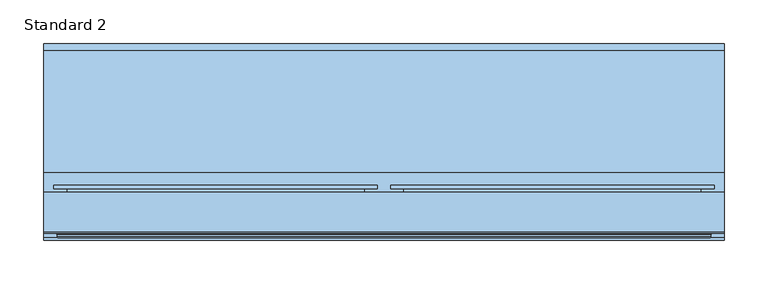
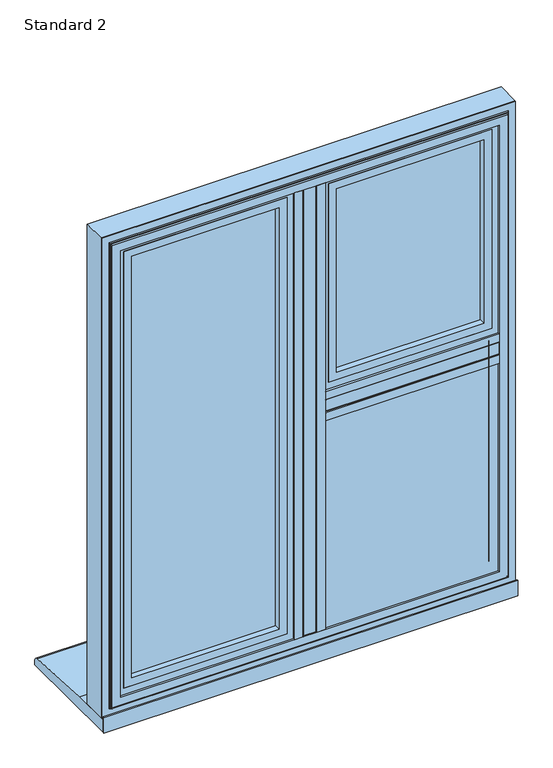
"""IFC4 building model written with IfcOpenShell, lengths in millimetres: window geometry, SMARTS_AlithermHeritage : Standard 2."""

from ifc_helpers import new_model, si_unit, point, frame, frame_2d, origin, place, context, project, spatial, polyline, circle_curve, ellipse_curve, trimmed, segment, composite_curve, outline, extrude, faceted_brep, source, transform, mapped, element, save
from ifc_brep_helpers import plane_surface, cylinder_surface, revolved_surface, advanced_brep


def standard_2_5219ce2f(model_context):
    return source(origin(), model_context, "Body", "SolidModel", [
        extrude(outline(polyline([(-13.6941456, 95.2798432), (13.6941456, 95.2798432), (13.6941456, 47.279476), (-13.6941456, 47.279476), (-13.6941456, 95.2798432)])), frame((0.0, 0.0, 652.6941456), z_axis=(0.0, 0.0, 1.0), x_axis=(1.0, 0.0, 0.0)), (0.0, 0.0, 1.0), 919.6117089),
        extrude(outline(composite_curve([segment(polyline([(-29.0, 47.279476), (29.0, 47.279476), (29.0, 43.2798432), (13.0, 43.2798432)]), True, "CONTINUOUS"), segment(trimmed(circle_curve(frame_2d((13.0, 44.2798432)), 1.0), [point((13.0, 43.2798432))], [point((12.0, 44.2798432))], False, "CARTESIAN"), True, "CONTINUOUS"), segment(polyline([(12.0, 44.2798432), (12.0, 45.7798432), (-12.0, 45.7798432), (-12.0, 44.2798432)]), True, "CONTINUOUS"), segment(trimmed(circle_curve(frame_2d((-13.0, 44.2798432)), 1.0), [point((-12.0, 44.2798432))], [point((-13.0, 43.2798432))], False, "CARTESIAN"), True, "CONTINUOUS"), segment(polyline([(-13.0, 43.2798432), (-29.0, 43.2798432), (-29.0, 47.279476)]), True, "CONTINUOUS")], self_intersect=False)), frame((0.0, 0.0, 668.0), z_axis=(0.0, 0.0, 1.0), x_axis=(1.0, 0.0, 0.0)), (0.0, 0.0, 1.0), 889.0),
        extrude(outline(polyline([(372.3058544, 95.2798432), (372.3058544, 47.279476), (13.6941456, 47.279476), (13.6941456, 95.2798432), (372.3058544, 95.2798432)])), frame((0.0, 0.0, 1098.8058544), z_axis=(0.0, 0.0, 1.0), x_axis=(1.0, 0.0, 0.0)), (0.0, 0.0, 1.0), 27.3882911),
        extrude(outline(composite_curve([segment(polyline([(47.279476, 1083.5), (43.2798432, 1083.5), (43.2798432, 1099.5)]), True, "CONTINUOUS"), segment(trimmed(circle_curve(frame_2d((44.2798432, 1099.5)), 1.0), [point((43.2798432, 1099.5))], [point((44.2798432, 1100.5))], False, "CARTESIAN"), True, "CONTINUOUS"), segment(polyline([(44.2798432, 1100.5), (45.7798432, 1100.5), (45.7798432, 1124.5), (44.2798432, 1124.5)]), True, "CONTINUOUS"), segment(trimmed(circle_curve(frame_2d((44.2798432, 1125.5)), 1.0), [point((44.2798432, 1124.5))], [point((43.2798432, 1125.5))], False, "CARTESIAN"), True, "CONTINUOUS"), segment(polyline([(43.2798432, 1125.5), (43.2798432, 1141.5), (47.279476, 1141.5), (47.279476, 1083.5)]), True, "CONTINUOUS")], self_intersect=False)), frame((29.0, 0.0, 0.0), z_axis=(1.0, 0.0, 0.0), x_axis=(0.0, 1.0, 0.0)), (0.0, 0.0, 1.0), 328.0),
        extrude(outline(polyline([(-343.5, 89.2798432), (-42.5, 89.2798432), (-42.5, 85.2798432), (-343.5, 85.2798432), (-343.5, 89.2798432)])), frame((0.0, 0.0, 681.5), z_axis=(0.0, 0.0, 1.0), x_axis=(1.0, 0.0, 0.0)), (0.0, 0.0, 1.0), 862.0),
        extrude(outline(polyline([(-343.5, 69.2798432), (-42.5, 69.2798432), (-42.5, 65.2798432), (-343.5, 65.2798432), (-343.5, 69.2798432)])), frame((0.0, 0.0, 681.5), z_axis=(0.0, 0.0, 1.0), x_axis=(1.0, 0.0, 0.0)), (0.0, 0.0, 1.0), 862.0),
        extrude(outline(polyline([(1543.5, -343.5), (681.5, -343.5), (681.5, -42.5), (1543.5, -42.5), (1543.5, -343.5)]), holes=[polyline([(1533.5, -52.5), (691.5, -52.5), (691.5, -333.5), (1533.5, -333.5), (1533.5, -52.5)])]), frame((0.0, 69.2798432, 0.0), z_axis=(0.0, 1.0, 0.0), x_axis=(0.0, 0.0, 1.0)), (0.0, 0.0, 1.0), 16.0),
        extrude(outline(polyline([(1547.0052956, -347.0052956), (677.9947044, -347.0052956), (677.9947044, -38.9947044), (1547.0052956, -38.9947044), (1547.0052956, -347.0052956)]), holes=[polyline([(1532.0, -54.0), (693.0, -54.0), (693.0, -332.0), (1532.0, -332.0), (1532.0, -54.0)])]), frame((0.0, 51.2798432, 0.0), z_axis=(0.0, 1.0, 0.0), x_axis=(0.0, 0.0, 1.0)), (0.0, 0.0, 1.0), 11.3),
        extrude(outline(polyline([(662.3548042, -362.6451958), (662.3548042, -23.3548042), (1562.6451958, -23.3548042), (1562.6451958, -362.6451958), (662.3548042, -362.6451958)]), holes=[polyline([(1547.0, -347.0), (1547.0, -39.0), (678.0, -39.0), (678.0, -347.0), (1547.0, -347.0)])]), frame((0.0, 51.2798432, 0.0), z_axis=(0.0, 1.0, 0.0), x_axis=(0.0, 0.0, 1.0)), (0.0, 0.0, 1.0), 41.6),
        advanced_brep(
        [(-332.0, 98.0798432, 1532.0), (-332.0, 92.8798432, 1532.0), (-332.0, 92.8798432, 693.0), (-332.0, 98.0798432, 693.0), (-54.0, 92.8798432, 693.0), (-54.0, 98.0798432, 693.0), (-54.0, 92.8798432, 1532.0), (-54.0, 98.0798432, 1532.0), (-378.2, 99.2798432, 1578.2), (-378.2, 103.2798432, 1578.2), (-378.2, 103.2798432, 646.8), (-378.2, 99.2798432, 646.8), (-7.8, 103.2798432, 646.8), (-7.8, 99.2798432, 646.8), (-7.8, 103.2798432, 1578.2), (-7.8, 99.2798432, 1578.2), (-363.1467657, 99.2798432, 1563.1467657), (-22.8532343, 99.2798432, 1563.1467657), (-22.8532343, 99.2798432, 661.8532343), (-363.1467657, 99.2798432, 661.8532343), (-349.2, 103.2798432, 675.8), (-36.8, 103.2798432, 675.8), (-36.8, 103.2798432, 1549.2), (-349.2, 103.2798432, 1549.2), (-363.1467657, 92.8798432, 1563.1467657), (-363.1467657, 92.8798432, 661.8532343), (-22.8532343, 92.8798432, 661.8532343), (-22.8532343, 92.8798432, 1563.1467657), (-347.2, 101.2798432, 1547.2), (-347.2, 100.0798432, 1547.2), (-347.2, 100.0798432, 677.8), (-347.2, 101.2798432, 677.8), (-345.2, 98.0798432, 1545.2), (-345.2, 98.0798432, 679.8), (-38.8, 100.0798432, 677.8), (-38.8, 101.2798432, 677.8), (-40.8, 98.0798432, 679.8), (-38.8, 100.0798432, 1547.2), (-38.8, 101.2798432, 1547.2), (-40.8, 98.0798432, 1545.2)],
        [
            (0, 1),
            (1, 2),
            (2, 3),
            (3, 0),
            (2, 4),
            (4, 5),
            (5, 3),
            (4, 6),
            (6, 7),
            (7, 5),
            (6, 1),
            (0, 7),
            (8, 9),
            (9, 10),
            (10, 11),
            (11, 8),
            (10, 12),
            (12, 13),
            (13, 11),
            (12, 14),
            (14, 15),
            (15, 13),
            (15, 8),
            (16, 17),
            (17, 18),
            (18, 19),
            (19, 16),
            (14, 9),
            (20, 21),
            (21, 22),
            (22, 23),
            (23, 20),
            (24, 16),
            (19, 25),
            (25, 24),
            (18, 26),
            (26, 25),
            (17, 27),
            (27, 26),
            (27, 24),
            (28, 29),
            (29, 30),
            (30, 31),
            (31, 28),
            (29, 32, ellipse_curve(frame((-345.2, 100.0798432, 1545.2), z_axis=(0.7071067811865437, 0.0, 0.7071067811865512), x_axis=(0.7071067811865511, 0.0, -0.7071067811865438)), 2.8284271, 2.0)),
            (32, 33),
            (33, 30, ellipse_curve(frame((-345.2, 100.0798432, 679.8), z_axis=(0.7071067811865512, 0.0, -0.7071067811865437), x_axis=(-0.7071067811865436, 0.0, -0.7071067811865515)), 2.8284271, 2.0)),
            (30, 34),
            (34, 35),
            (35, 31),
            (33, 36),
            (36, 34, ellipse_curve(frame((-40.8, 100.0798432, 679.8), z_axis=(0.7071067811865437, 0.0, 0.7071067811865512), x_axis=(0.7071067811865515, 0.0, -0.7071067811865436)), 2.8284271, 2.0)),
            (34, 37),
            (37, 38),
            (38, 35),
            (36, 39),
            (39, 37, ellipse_curve(frame((-40.8, 100.0798432, 1545.2), z_axis=(-0.7071067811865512, 0.0, 0.7071067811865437), x_axis=(0.7071067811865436, 0.0, 0.7071067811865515)), 2.8284271, 2.0)),
            (32, 39),
            (37, 29),
            (28, 38),
            (23, 28, ellipse_curve(frame((-349.2, 101.2798432, 1549.2), z_axis=(-0.7071067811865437, 0.0, -0.7071067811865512), x_axis=(-0.7071067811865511, 0.0, 0.7071067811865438)), 2.8284271, 2.0)),
            (31, 20, ellipse_curve(frame((-349.2, 101.2798432, 675.8), z_axis=(-0.7071067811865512, 0.0, 0.7071067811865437), x_axis=(0.7071067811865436, 0.0, 0.7071067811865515)), 2.8284271, 2.0)),
            (35, 21, ellipse_curve(frame((-36.8, 101.2798432, 675.8), z_axis=(-0.7071067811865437, 0.0, -0.7071067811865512), x_axis=(-0.7071067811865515, 0.0, 0.7071067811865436)), 2.8284271, 2.0)),
            (38, 22, ellipse_curve(frame((-36.8, 101.2798432, 1549.2), z_axis=(0.7071067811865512, 0.0, -0.7071067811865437), x_axis=(-0.7071067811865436, 0.0, -0.7071067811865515)), 2.8284271, 2.0)),
        ],
        [
            plane_surface(frame((-332.0, 92.8798432, 1532.0), z_axis=(1.0, 0.0, 0.0), x_axis=(0.0, 0.0, -1.0))),
            plane_surface(frame((-332.0, 92.8798432, 693.0), z_axis=(0.0, 0.0, 1.0), x_axis=(1.0, 0.0, 0.0))),
            plane_surface(frame((-54.0, 92.8798432, 693.0), z_axis=(-1.0, 0.0, 0.0), x_axis=(0.0, 0.0, 1.0))),
            plane_surface(frame((-54.0, 92.8798432, 1532.0), z_axis=(0.0, 0.0, -1.0), x_axis=(-1.0, 0.0, 0.0))),
            plane_surface(frame((-378.2, 103.2798432, 1578.2), z_axis=(-1.0, 0.0, 0.0), x_axis=(0.0, 0.0, -1.0))),
            plane_surface(frame((-378.2, 103.2798432, 646.8), z_axis=(0.0, 0.0, -1.0), x_axis=(1.0, 0.0, 0.0))),
            plane_surface(frame((-7.8, 103.2798432, 646.8), z_axis=(1.0, 0.0, 0.0), x_axis=(0.0, 0.0, 1.0))),
            plane_surface(frame((-7.8, 99.2798432, 1578.2), z_axis=(0.0, -1.0, 0.0), x_axis=(-1.0, 0.0, 0.0))),
            plane_surface(frame((-7.8, 103.2798432, 1578.2), z_axis=(0.0, 0.0, 1.0), x_axis=(-1.0, 0.0, 0.0))),
            plane_surface(frame((-36.8, 103.2798432, 1549.2), z_axis=(0.0, 1.0, 0.0), x_axis=(-1.0, 0.0, 0.0))),
            plane_surface(frame((-363.1467657, 99.2798432, 1563.1467657), z_axis=(-1.0, 0.0, 0.0), x_axis=(0.0, 0.0, -1.0))),
            plane_surface(frame((-363.1467657, 99.2798432, 661.8532343), z_axis=(0.0, 0.0, -1.0), x_axis=(1.0, 0.0, 0.0))),
            plane_surface(frame((-22.8532343, 99.2798432, 661.8532343), z_axis=(1.0, 0.0, 0.0), x_axis=(0.0, 0.0, 1.0))),
            plane_surface(frame((-22.8532343, 92.8798432, 1563.1467657), z_axis=(0.0, -1.0, 0.0), x_axis=(-1.0, 0.0, 0.0))),
            plane_surface(frame((-22.8532343, 99.2798432, 1563.1467657), z_axis=(0.0, 0.0, 1.0), x_axis=(-1.0, 0.0, 0.0))),
            plane_surface(frame((-347.2, 100.0798432, 1547.2), z_axis=(1.0, 0.0, 0.0), x_axis=(0.0, 0.0, -1.0))),
            revolved_surface(polyline([(-347.2, 100.0798432, 677.8), (-347.2, 100.0798432, 1547.2)]), (-345.2, 100.0798432, 1557.0), (0.0, 0.0, -1.0)),
            plane_surface(frame((-347.2, 100.0798432, 677.8), z_axis=(0.0, 0.0, 1.0), x_axis=(1.0, 0.0, 0.0))),
            revolved_surface(polyline([(-38.80000000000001, 100.0798432, 677.8), (-347.2, 100.0798432, 677.8)]), (-357.0, 100.0798432, 679.8), (1.0, 0.0, 0.0)),
            plane_surface(frame((-38.8, 100.0798432, 677.8), z_axis=(-1.0, 0.0, 0.0), x_axis=(0.0, 0.0, 1.0))),
            revolved_surface(polyline([(-38.8, 100.0798432, 1547.2), (-38.8, 100.0798432, 677.8)]), (-40.8, 100.0798432, 668.0), (0.0, 0.0, 1.0)),
            plane_surface(frame((-54.0, 98.0798432, 1532.0), z_axis=(0.0, 1.0, 0.0), x_axis=(-1.0, 0.0, 0.0))),
            plane_surface(frame((-38.8, 100.0798432, 1547.2), z_axis=(0.0, 0.0, -1.0), x_axis=(-1.0, 0.0, 0.0))),
            revolved_surface(polyline([(-347.2, 100.0798432, 1547.2), (-38.8, 100.0798432, 1547.2)]), (-29.0, 100.0798432, 1545.2), (-1.0, 0.0, 0.0)),
            cylinder_surface(frame((-349.2, 101.2798432, 1557.0), z_axis=(0.0, 0.0, 1.0), x_axis=(-1.0, 0.0, 0.0)), 2.0),
            cylinder_surface(frame((-357.0, 101.2798432, 675.8), z_axis=(-1.0, 0.0, 0.0), x_axis=(0.0, 0.0, -1.0)), 2.0),
            cylinder_surface(frame((-36.8, 101.2798432, 668.0), z_axis=(0.0, 0.0, -1.0), x_axis=(1.0, 0.0, 0.0)), 2.0),
            cylinder_surface(frame((-29.0, 101.2798432, 1549.2), z_axis=(1.0, 0.0, 0.0), x_axis=(0.0, 0.0, 1.0)), 2.0),
        ],
        [
            (0, [[1, 2, 3, 4]]),
            (1, [[-3, 5, 6, 7]]),
            (2, [[-6, 8, 9, 10]]),
            (3, [[-9, 11, -1, 12]]),
            (4, [[13, 14, 15, 16]]),
            (5, [[-15, 17, 18, 19]]),
            (6, [[-18, 20, 21, 22]]),
            (7, [[-19, -22, 23, -16], [24, 25, 26, 27]]),
            (8, [[-21, 28, -13, -23]]),
            (9, [[-28, -20, -17, -14], [29, 30, 31, 32]]),
            (10, [[33, -27, 34, 35]]),
            (11, [[-34, -26, 36, 37]]),
            (12, [[-36, -25, 38, 39]]),
            (13, [[-37, -39, 40, -35], [-11, -8, -5, -2]]),
            (14, [[-38, -24, -33, -40]]),
            (15, [[41, 42, 43, 44]]),
            (16, [[45, 46, 47, -42]]),
            (17, [[-43, 48, 49, 50]]),
            (18, [[-47, 51, 52, -48]]),
            (19, [[-49, 53, 54, 55]]),
            (20, [[-52, 56, 57, -53]]),
            (21, [[58, -56, -51, -46], [-7, -10, -12, -4]]),
            (22, [[-54, 59, -41, 60]]),
            (23, [[-57, -58, -45, -59]]),
            (24, [[61, -44, 62, -32]]),
            (25, [[-62, -50, 63, -29]]),
            (26, [[-63, -55, 64, -30]]),
            (27, [[-64, -60, -61, -31]]),
        ],
    ),
        extrude(outline(polyline([(19.0, 75.2798432), (367.0, 75.2798432), (367.0, 71.2798432), (19.0, 71.2798432), (19.0, 75.2798432)])), frame((0.0, 0.0, 658.0), z_axis=(0.0, 0.0, 1.0), x_axis=(1.0, 0.0, 0.0)), (0.0, 0.0, 1.0), 435.5),
        extrude(outline(polyline([(19.0, 55.2798432), (367.0, 55.2798432), (367.0, 51.2798432), (19.0, 51.2798432), (19.0, 55.2798432)])), frame((0.0, 0.0, 658.0), z_axis=(0.0, 0.0, 1.0), x_axis=(1.0, 0.0, 0.0)), (0.0, 0.0, 1.0), 435.5),
        extrude(outline(polyline([(1093.5, 19.0), (658.0, 19.0), (658.0, 367.0), (1093.5, 367.0), (1093.5, 19.0)]), holes=[polyline([(1083.5, 357.0), (668.0, 357.0), (668.0, 29.0), (1083.5, 29.0), (1083.5, 357.0)])]), frame((0.0, 55.2798432, 0.0), z_axis=(0.0, 1.0, 0.0), x_axis=(0.0, 0.0, 1.0)), (0.0, 0.0, 1.0), 16.0),
        faceted_brep([(366.8148849, 95.2798432, 1093.3148849), (357.0, 78.2798098, 1083.5), (29.0, 78.2798098, 1083.5), (19.1851151, 95.2798432, 1093.3148849), (372.3702676, 78.2798098, 1098.8702676), (372.3702676, 95.2798432, 1098.8702676), (13.6297324, 95.2798432, 1098.8702676), (13.6297324, 78.2798098, 1098.8702676), (13.6297324, 78.2798098, 652.6297324), (13.6297324, 95.2798432, 652.6297324), (372.3702676, 95.2798432, 652.6297324), (372.3702676, 78.2798098, 652.6297324), (19.1851151, 95.2798432, 658.1851151), (366.8148849, 95.2798432, 658.1851151), (357.0, 78.2798098, 668.0), (29.0, 78.2798098, 668.0)], [[[0, 1, 2, 3]], [[4, 5, 6, 7]], [[8, 9, 10, 11]], [[5, 10, 9, 6], [3, 12, 13, 0]], [[7, 8, 11, 4], [1, 14, 15, 2]], [[3, 2, 15, 12]], [[7, 6, 9, 8]], [[12, 15, 14, 13]], [[13, 14, 1, 0]], [[11, 10, 5, 4]]]),
        extrude(outline(polyline([(1590.0, 390.0), (1590.0, -390.0), (635.0, -390.0), (635.0, 390.0), (1590.0, 390.0)]), holes=[polyline([(652.7000182, 372.2999818), (652.7000182, -372.2999818), (1572.2999818, -372.2999818), (1572.2999818, 372.2999818), (652.7000182, 372.2999818)])]), frame((0.0, 50.279857, 0.0), z_axis=(0.0, 1.0, 0.0), x_axis=(0.0, 0.0, 1.0)), (0.0, 0.0, 1.0), 44.9999962),
        advanced_brep(
        [(357.0, 43.2798432, 1557.0), (357.0, 47.2798432, 1557.0), (357.0, 47.2798432, 668.0), (357.0, 43.2798432, 668.0), (390.0, 50.279857, 1590.0), (390.0, 48.279857, 1590.0), (390.0, 48.279857, 635.0), (390.0, 50.279857, 635.0), (372.4999818, 43.2798432, 1572.4999818), (-372.4999818, 43.2798432, 1572.4999818), (-372.4999818, 43.2798432, 652.5000182), (372.4999818, 43.2798432, 652.5000182), (-357.0, 43.2798432, 668.0), (-357.0, 43.2798432, 1557.0), (-390.0, 50.279857, 1590.0), (-390.0, 48.279857, 1590.0), (-390.0, 50.279857, 635.0), (372.2999818, 50.279857, 1572.2999818), (-372.2999818, 50.279857, 1572.2999818), (-372.2999818, 50.279857, 652.7000182), (372.2999818, 50.279857, 652.7000182), (-357.0, 47.2798432, 1557.0), (-357.0, 47.2798432, 668.0), (-390.0, 48.279857, 635.0), (-372.2999818, 47.2798432, 1572.2999818), (372.2999818, 47.2798432, 1572.2999818), (372.2999818, 47.2798432, 652.7000182), (374.4999818, 46.779857, 650.5000182), (374.4999818, 45.2798432, 650.5000182), (-374.4999818, 45.2798432, 650.5000182), (-374.4999818, 46.779857, 650.5000182), (374.4999818, 46.779857, 1574.4999818), (374.4999818, 45.2798432, 1574.4999818), (-372.2999818, 47.2798432, 652.7000182), (-374.4999818, 45.2798432, 1574.4999818), (-374.4999818, 46.779857, 1574.4999818), (375.9999818, 48.279857, 1575.9999818), (375.9999818, 48.279857, 649.0000182), (-375.9999818, 48.279857, 649.0000182), (-375.9999818, 48.279857, 1575.9999818)],
        [
            (0, 1),
            (1, 2),
            (2, 3),
            (3, 0),
            (4, 5),
            (5, 6),
            (6, 7),
            (7, 4),
            (8, 9),
            (9, 10),
            (10, 11),
            (11, 8),
            (3, 12),
            (12, 13),
            (13, 0),
            (14, 15),
            (15, 5),
            (4, 14),
            (7, 16),
            (16, 14),
            (17, 18),
            (18, 19),
            (19, 20),
            (20, 17),
            (13, 21),
            (21, 1),
            (2, 22),
            (22, 12),
            (22, 21),
            (6, 23),
            (23, 16),
            (23, 15),
            (24, 18),
            (17, 25),
            (25, 24),
            (20, 26),
            (26, 25),
            (27, 28),
            (28, 29),
            (29, 30),
            (30, 27),
            (31, 32),
            (32, 28),
            (27, 31),
            (19, 33),
            (33, 26),
            (24, 33),
            (29, 34),
            (34, 35),
            (35, 30),
            (34, 32),
            (31, 35),
            (36, 31, ellipse_curve(frame((375.9999818, 46.779857, 1575.9999818), z_axis=(-0.7071067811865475, 0.0, 0.7071067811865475), x_axis=(-0.7071067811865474, 0.0, -0.7071067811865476)), 2.1213203, 1.5)),
            (27, 37, ellipse_curve(frame((375.9999818, 46.779857, 649.0000182), z_axis=(-0.7071067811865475, 0.0, -0.7071067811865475), x_axis=(0.7071067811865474, 0.0, -0.7071067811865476)), 2.1213203, 1.5)),
            (37, 36),
            (30, 38, ellipse_curve(frame((-375.9999818, 46.779857, 649.0000182), z_axis=(-0.7071067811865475, 0.0, 0.7071067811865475), x_axis=(-0.7071067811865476, 0.0, -0.7071067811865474)), 2.1213203, 1.5)),
            (38, 37),
            (35, 39, ellipse_curve(frame((-375.9999818, 46.779857, 1575.9999818), z_axis=(0.7071067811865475, 0.0, 0.7071067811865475), x_axis=(-0.7071067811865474, 0.0, 0.7071067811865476)), 2.1213203, 1.5)),
            (39, 38),
            (36, 39),
            (32, 8, ellipse_curve(frame((372.4999818, 45.2798432, 1572.4999818), z_axis=(0.7071067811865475, 0.0, -0.7071067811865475), x_axis=(0.7071067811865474, 0.0, 0.7071067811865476)), 2.8284271, 2.0)),
            (11, 28, ellipse_curve(frame((372.4999818, 45.2798432, 652.5000182), z_axis=(0.7071067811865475, 0.0, 0.7071067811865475), x_axis=(-0.7071067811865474, 0.0, 0.7071067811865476)), 2.8284271, 2.0)),
            (10, 29, ellipse_curve(frame((-372.4999818, 45.2798432, 652.5000182), z_axis=(0.7071067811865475, 0.0, -0.7071067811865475), x_axis=(0.7071067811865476, 0.0, 0.7071067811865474)), 2.8284271, 2.0)),
            (9, 34, ellipse_curve(frame((-372.4999818, 45.2798432, 1572.4999818), z_axis=(-0.7071067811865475, 0.0, -0.7071067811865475), x_axis=(0.7071067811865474, 0.0, -0.7071067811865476)), 2.8284271, 2.0)),
        ],
        [
            plane_surface(frame((357.0, 47.2798432, 1557.0), z_axis=(-1.0, 0.0, 0.0), x_axis=(0.0, 0.0, -1.0))),
            plane_surface(frame((390.0, 48.279857, 1590.0), z_axis=(1.0, 0.0, 0.0), x_axis=(0.0, 0.0, -1.0))),
            plane_surface(frame((-357.0, 43.2798432, 1557.0), z_axis=(0.0, -1.0, 0.0), x_axis=(1.0, 0.0, 0.0))),
            plane_surface(frame((-390.0, 48.279857, 1590.0), z_axis=(0.0, 0.0, 1.0), x_axis=(1.0, 0.0, 0.0))),
            plane_surface(frame((-390.0, 50.279857, 1590.0), z_axis=(0.0, 1.0, 0.0), x_axis=(1.0, 0.0, 0.0))),
            plane_surface(frame((-357.0, 47.2798432, 1557.0), z_axis=(0.0, 0.0, -1.0), x_axis=(1.0, 0.0, 0.0))),
            plane_surface(frame((357.0, 47.2798432, 668.0), z_axis=(0.0, 0.0, 1.0), x_axis=(-1.0, 0.0, 0.0))),
            plane_surface(frame((-357.0, 47.2798432, 668.0), z_axis=(1.0, 0.0, 0.0), x_axis=(0.0, 0.0, 1.0))),
            plane_surface(frame((390.0, 48.279857, 635.0), z_axis=(0.0, 0.0, -1.0), x_axis=(-1.0, 0.0, 0.0))),
            plane_surface(frame((-390.0, 48.279857, 635.0), z_axis=(-1.0, 0.0, 0.0), x_axis=(0.0, 0.0, 1.0))),
            plane_surface(frame((-372.2999818, 50.279857, 1572.2999818), z_axis=(0.0, 0.0, -1.0), x_axis=(1.0, 0.0, 0.0))),
            plane_surface(frame((372.2999818, 50.279857, 1572.2999818), z_axis=(-1.0, 0.0, 0.0), x_axis=(0.0, 0.0, -1.0))),
            plane_surface(frame((374.4999818, 45.2798432, 650.5000182), z_axis=(0.0, 0.0, -1.0), x_axis=(-1.0, 0.0, 0.0))),
            plane_surface(frame((374.4999818, 45.2798432, 1574.4999818), z_axis=(1.0, 0.0, 0.0), x_axis=(0.0, 0.0, -1.0))),
            plane_surface(frame((372.2999818, 50.279857, 652.7000182), z_axis=(0.0, 0.0, 1.0), x_axis=(-1.0, 0.0, 0.0))),
            plane_surface(frame((-372.2999818, 50.279857, 652.7000182), z_axis=(1.0, 0.0, 0.0), x_axis=(0.0, 0.0, 1.0))),
            plane_surface(frame((-374.4999818, 45.2798432, 650.5000182), z_axis=(-1.0, 0.0, 0.0), x_axis=(0.0, 0.0, 1.0))),
            plane_surface(frame((-372.2999818, 47.2798432, 1572.2999818), z_axis=(0.0, 1.0, 0.0), x_axis=(1.0, 0.0, 0.0))),
            plane_surface(frame((-374.4999818, 45.2798432, 1574.4999818), z_axis=(0.0, 0.0, 1.0), x_axis=(1.0, 0.0, 0.0))),
            revolved_surface(polyline([(374.4999818, 46.779857, 647.5000182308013), (374.4999818, 46.779857, 1577.4999817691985)]), (375.9999818, 46.779857, 1590.0), (0.0, 0.0, -1.0)),
            revolved_surface(polyline([(-377.4999817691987, 46.779857, 650.5000182), (377.49998176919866, 46.779857, 650.5000182)]), (390.0, 46.779857, 649.0000182), (-1.0, 0.0, 0.0)),
            revolved_surface(polyline([(-374.4999818, 46.779857, 1577.4999817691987), (-374.4999818, 46.779857, 647.5000182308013)]), (-375.9999818, 46.779857, 635.0), (0.0, 0.0, 1.0)),
            revolved_surface(polyline([(377.4999817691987, 46.779857, 1574.4999818), (-377.49998176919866, 46.779857, 1574.4999818)]), (-390.0, 46.779857, 1575.9999818), (1.0, 0.0, 0.0)),
            plane_surface(frame((-375.9999818, 48.279857, 1575.9999818), z_axis=(0.0, -1.0, 0.0), x_axis=(1.0, 0.0, 0.0))),
            cylinder_surface(frame((372.4999818, 45.2798432, 1590.0), z_axis=(0.0, 0.0, 1.0), x_axis=(-1.0, 0.0, 0.0)), 2.0),
            cylinder_surface(frame((390.0, 45.2798432, 652.5000182), z_axis=(1.0, 0.0, 0.0), x_axis=(0.0, 0.0, 1.0)), 2.0),
            cylinder_surface(frame((-372.4999818, 45.2798432, 635.0), z_axis=(0.0, 0.0, -1.0), x_axis=(1.0, 0.0, 0.0)), 2.0),
            cylinder_surface(frame((-390.0, 45.2798432, 1572.4999818), z_axis=(-1.0, 0.0, 0.0), x_axis=(0.0, 0.0, -1.0)), 2.0),
        ],
        [
            (0, [[1, 2, 3, 4]]),
            (1, [[5, 6, 7, 8]]),
            (2, [[9, 10, 11, 12], [13, 14, 15, -4]]),
            (3, [[16, 17, -5, 18]]),
            (4, [[19, 20, -18, -8], [21, 22, 23, 24]]),
            (5, [[25, 26, -1, -15]]),
            (6, [[-3, 27, 28, -13]]),
            (7, [[-28, 29, -25, -14]]),
            (8, [[-7, 30, 31, -19]]),
            (9, [[-31, 32, -16, -20]]),
            (10, [[33, -21, 34, 35]]),
            (11, [[-34, -24, 36, 37]]),
            (12, [[38, 39, 40, 41]]),
            (13, [[42, 43, -38, 44]]),
            (14, [[-36, -23, 45, 46]]),
            (15, [[-45, -22, -33, 47]]),
            (16, [[-40, 48, 49, 50]]),
            (17, [[-46, -47, -35, -37], [-26, -29, -27, -2]]),
            (18, [[-49, 51, -42, 52]]),
            (19, [[53, -44, 54, 55]]),
            (20, [[-54, -41, 56, 57]]),
            (21, [[-56, -50, 58, 59]]),
            (22, [[-58, -52, -53, 60]]),
            (23, [[-17, -32, -30, -6], [-57, -59, -60, -55]]),
            (24, [[61, -12, 62, -43]]),
            (25, [[-62, -11, 63, -39]]),
            (26, [[-63, -10, 64, -48]]),
            (27, [[-64, -9, -61, -51]]),
        ],
    ),
        extrude(outline(polyline([(42.5, 89.2798432), (343.5, 89.2798432), (343.5, 85.2798432), (42.5, 85.2798432), (42.5, 89.2798432)])), frame((0.0, 0.0, 1155.0), z_axis=(0.0, 0.0, 1.0), x_axis=(1.0, 0.0, 0.0)), (0.0, 0.0, 1.0), 388.5),
        extrude(outline(polyline([(42.5, 69.2798432), (343.5, 69.2798432), (343.5, 65.2798432), (42.5, 65.2798432), (42.5, 69.2798432)])), frame((0.0, 0.0, 1155.0), z_axis=(0.0, 0.0, 1.0), x_axis=(1.0, 0.0, 0.0)), (0.0, 0.0, 1.0), 388.5),
        extrude(outline(polyline([(1543.5, 42.5), (1155.0, 42.5), (1155.0, 343.5), (1543.5, 343.5), (1543.5, 42.5)]), holes=[polyline([(1533.5, 333.5), (1165.0, 333.5), (1165.0, 52.5), (1533.5, 52.5), (1533.5, 333.5)])]), frame((0.0, 69.2798432, 0.0), z_axis=(0.0, 1.0, 0.0), x_axis=(0.0, 0.0, 1.0)), (0.0, 0.0, 1.0), 16.0),
        extrude(outline(polyline([(1547.0052956, 38.9947044), (1151.4947044, 38.9947044), (1151.4947044, 347.0052956), (1547.0052956, 347.0052956), (1547.0052956, 38.9947044)]), holes=[polyline([(1532.0, 332.0), (1166.5, 332.0), (1166.5, 54.0), (1532.0, 54.0), (1532.0, 332.0)])]), frame((0.0, 51.2798432, 0.0), z_axis=(0.0, 1.0, 0.0), x_axis=(0.0, 0.0, 1.0)), (0.0, 0.0, 1.0), 11.3),
        extrude(outline(polyline([(1135.8548042, 23.3548042), (1135.8548042, 362.6451958), (1562.6451958, 362.6451958), (1562.6451958, 23.3548042), (1135.8548042, 23.3548042)]), holes=[polyline([(1547.0, 39.0), (1547.0, 347.0), (1151.5, 347.0), (1151.5, 39.0), (1547.0, 39.0)])]), frame((0.0, 51.2798432, 0.0), z_axis=(0.0, 1.0, 0.0), x_axis=(0.0, 0.0, 1.0)), (0.0, 0.0, 1.0), 41.6),
        advanced_brep(
        [(54.0, 98.0798432, 1532.0), (54.0, 92.8798432, 1532.0), (54.0, 92.8798432, 1166.5), (54.0, 98.0798432, 1166.5), (332.0, 92.8798432, 1166.5), (332.0, 98.0798432, 1166.5), (332.0, 92.8798432, 1532.0), (332.0, 98.0798432, 1532.0), (7.8, 99.2798432, 1578.2), (7.8, 103.2798432, 1578.2), (7.8, 103.2798432, 1120.3), (7.8, 99.2798432, 1120.3), (378.2, 103.2798432, 1120.3), (378.2, 99.2798432, 1120.3), (378.2, 103.2798432, 1578.2), (378.2, 99.2798432, 1578.2), (22.8532343, 99.2798432, 1563.1467657), (363.1467657, 99.2798432, 1563.1467657), (363.1467657, 99.2798432, 1135.3532343), (22.8532343, 99.2798432, 1135.3532343), (36.8, 103.2798432, 1149.3), (349.2, 103.2798432, 1149.3), (349.2, 103.2798432, 1549.2), (36.8, 103.2798432, 1549.2), (22.8532343, 92.8798432, 1563.1467657), (22.8532343, 92.8798432, 1135.3532343), (363.1467657, 92.8798432, 1135.3532343), (363.1467657, 92.8798432, 1563.1467657), (38.8, 101.2798432, 1547.2), (38.8, 100.0798432, 1547.2), (38.8, 100.0798432, 1151.3), (38.8, 101.2798432, 1151.3), (40.8, 98.0798432, 1545.2), (40.8, 98.0798432, 1153.3), (347.2, 100.0798432, 1151.3), (347.2, 101.2798432, 1151.3), (345.2, 98.0798432, 1153.3), (347.2, 100.0798432, 1547.2), (347.2, 101.2798432, 1547.2), (345.2, 98.0798432, 1545.2)],
        [
            (0, 1),
            (1, 2),
            (2, 3),
            (3, 0),
            (2, 4),
            (4, 5),
            (5, 3),
            (4, 6),
            (6, 7),
            (7, 5),
            (6, 1),
            (0, 7),
            (8, 9),
            (9, 10),
            (10, 11),
            (11, 8),
            (10, 12),
            (12, 13),
            (13, 11),
            (12, 14),
            (14, 15),
            (15, 13),
            (15, 8),
            (16, 17),
            (17, 18),
            (18, 19),
            (19, 16),
            (14, 9),
            (20, 21),
            (21, 22),
            (22, 23),
            (23, 20),
            (24, 16),
            (19, 25),
            (25, 24),
            (18, 26),
            (26, 25),
            (17, 27),
            (27, 26),
            (27, 24),
            (28, 29),
            (29, 30),
            (30, 31),
            (31, 28),
            (29, 32, ellipse_curve(frame((40.8, 100.0798432, 1545.2), z_axis=(0.7071067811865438, 0.0, 0.7071067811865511), x_axis=(0.707106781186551, 0.0, -0.7071067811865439)), 2.8284271, 2.0)),
            (32, 33),
            (33, 30, ellipse_curve(frame((40.8, 100.0798432, 1153.3), z_axis=(0.7071067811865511, 0.0, -0.7071067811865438), x_axis=(-0.7071067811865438, 0.0, -0.7071067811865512)), 2.8284271, 2.0)),
            (30, 34),
            (34, 35),
            (35, 31),
            (33, 36),
            (36, 34, ellipse_curve(frame((345.2, 100.0798432, 1153.3), z_axis=(0.7071067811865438, 0.0, 0.7071067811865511), x_axis=(0.7071067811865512, 0.0, -0.7071067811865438)), 2.8284271, 2.0)),
            (34, 37),
            (37, 38),
            (38, 35),
            (36, 39),
            (39, 37, ellipse_curve(frame((345.2, 100.0798432, 1545.2), z_axis=(-0.7071067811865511, 0.0, 0.7071067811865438), x_axis=(0.7071067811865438, 0.0, 0.7071067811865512)), 2.8284271, 2.0)),
            (32, 39),
            (37, 29),
            (28, 38),
            (23, 28, ellipse_curve(frame((36.8, 101.2798432, 1549.2), z_axis=(-0.7071067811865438, 0.0, -0.7071067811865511), x_axis=(-0.707106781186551, 0.0, 0.7071067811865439)), 2.8284271, 2.0)),
            (31, 20, ellipse_curve(frame((36.8, 101.2798432, 1149.3), z_axis=(-0.7071067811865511, 0.0, 0.7071067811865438), x_axis=(0.7071067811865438, 0.0, 0.7071067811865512)), 2.8284271, 2.0)),
            (35, 21, ellipse_curve(frame((349.2, 101.2798432, 1149.3), z_axis=(-0.7071067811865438, 0.0, -0.7071067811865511), x_axis=(-0.7071067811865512, 0.0, 0.7071067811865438)), 2.8284271, 2.0)),
            (38, 22, ellipse_curve(frame((349.2, 101.2798432, 1549.2), z_axis=(0.7071067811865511, 0.0, -0.7071067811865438), x_axis=(-0.7071067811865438, 0.0, -0.7071067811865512)), 2.8284271, 2.0)),
        ],
        [
            plane_surface(frame((54.0, 92.8798432, 1532.0), z_axis=(1.0, 0.0, 0.0), x_axis=(0.0, 0.0, -1.0))),
            plane_surface(frame((54.0, 92.8798432, 1166.5), z_axis=(0.0, 0.0, 1.0), x_axis=(1.0, 0.0, 0.0))),
            plane_surface(frame((332.0, 92.8798432, 1166.5), z_axis=(-1.0, 0.0, 0.0), x_axis=(0.0, 0.0, 1.0))),
            plane_surface(frame((332.0, 92.8798432, 1532.0), z_axis=(0.0, 0.0, -1.0), x_axis=(-1.0, 0.0, 0.0))),
            plane_surface(frame((7.8, 103.2798432, 1578.2), z_axis=(-1.0, 0.0, 0.0), x_axis=(0.0, 0.0, -1.0))),
            plane_surface(frame((7.8, 103.2798432, 1120.3), z_axis=(0.0, 0.0, -1.0), x_axis=(1.0, 0.0, 0.0))),
            plane_surface(frame((378.2, 103.2798432, 1120.3), z_axis=(1.0, 0.0, 0.0), x_axis=(0.0, 0.0, 1.0))),
            plane_surface(frame((378.2, 99.2798432, 1578.2), z_axis=(0.0, -1.0, 0.0), x_axis=(-1.0, 0.0, 0.0))),
            plane_surface(frame((378.2, 103.2798432, 1578.2), z_axis=(0.0, 0.0, 1.0), x_axis=(-1.0, 0.0, 0.0))),
            plane_surface(frame((349.2, 103.2798432, 1549.2), z_axis=(0.0, 1.0, 0.0), x_axis=(-1.0, 0.0, 0.0))),
            plane_surface(frame((22.8532343, 99.2798432, 1563.1467657), z_axis=(-1.0, 0.0, 0.0), x_axis=(0.0, 0.0, -1.0))),
            plane_surface(frame((22.8532343, 99.2798432, 1135.3532343), z_axis=(0.0, 0.0, -1.0), x_axis=(1.0, 0.0, 0.0))),
            plane_surface(frame((363.1467657, 99.2798432, 1135.3532343), z_axis=(1.0, 0.0, 0.0), x_axis=(0.0, 0.0, 1.0))),
            plane_surface(frame((363.1467657, 92.8798432, 1563.1467657), z_axis=(0.0, -1.0, 0.0), x_axis=(-1.0, 0.0, 0.0))),
            plane_surface(frame((363.1467657, 99.2798432, 1563.1467657), z_axis=(0.0, 0.0, 1.0), x_axis=(-1.0, 0.0, 0.0))),
            plane_surface(frame((38.8, 100.0798432, 1547.2), z_axis=(1.0, 0.0, 0.0), x_axis=(0.0, 0.0, -1.0))),
            revolved_surface(polyline([(38.8, 100.0798432, 1151.3), (38.8, 100.0798432, 1547.2)]), (40.8, 100.0798432, 1557.0), (0.0, 0.0, -1.0)),
            plane_surface(frame((38.8, 100.0798432, 1151.3), z_axis=(0.0, 0.0, 1.0), x_axis=(1.0, 0.0, 0.0))),
            revolved_surface(polyline([(347.2, 100.0798432, 1151.3), (38.8, 100.0798432, 1151.3)]), (29.0, 100.0798432, 1153.3), (1.0, 0.0, 0.0)),
            plane_surface(frame((347.2, 100.0798432, 1151.3), z_axis=(-1.0, 0.0, 0.0), x_axis=(0.0, 0.0, 1.0))),
            revolved_surface(polyline([(347.2, 100.0798432, 1547.2), (347.2, 100.0798432, 1151.3)]), (345.2, 100.0798432, 1141.5), (0.0, 0.0, 1.0)),
            plane_surface(frame((332.0, 98.0798432, 1532.0), z_axis=(0.0, 1.0, 0.0), x_axis=(-1.0, 0.0, 0.0))),
            plane_surface(frame((347.2, 100.0798432, 1547.2), z_axis=(0.0, 0.0, -1.0), x_axis=(-1.0, 0.0, 0.0))),
            revolved_surface(polyline([(38.80000000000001, 100.0798432, 1547.2), (347.2, 100.0798432, 1547.2)]), (357.0, 100.0798432, 1545.2), (-1.0, 0.0, 0.0)),
            cylinder_surface(frame((36.8, 101.2798432, 1557.0), z_axis=(0.0, 0.0, 1.0), x_axis=(-1.0, 0.0, 0.0)), 2.0),
            cylinder_surface(frame((29.0, 101.2798432, 1149.3), z_axis=(-1.0, 0.0, 0.0), x_axis=(0.0, 0.0, -1.0)), 2.0),
            cylinder_surface(frame((349.2, 101.2798432, 1141.5), z_axis=(0.0, 0.0, -1.0), x_axis=(1.0, 0.0, 0.0)), 2.0),
            cylinder_surface(frame((357.0, 101.2798432, 1549.2), z_axis=(1.0, 0.0, 0.0), x_axis=(0.0, 0.0, 1.0)), 2.0),
        ],
        [
            (0, [[1, 2, 3, 4]]),
            (1, [[-3, 5, 6, 7]]),
            (2, [[-6, 8, 9, 10]]),
            (3, [[-9, 11, -1, 12]]),
            (4, [[13, 14, 15, 16]]),
            (5, [[-15, 17, 18, 19]]),
            (6, [[-18, 20, 21, 22]]),
            (7, [[-19, -22, 23, -16], [24, 25, 26, 27]]),
            (8, [[-21, 28, -13, -23]]),
            (9, [[-28, -20, -17, -14], [29, 30, 31, 32]]),
            (10, [[33, -27, 34, 35]]),
            (11, [[-34, -26, 36, 37]]),
            (12, [[-36, -25, 38, 39]]),
            (13, [[-37, -39, 40, -35], [-11, -8, -5, -2]]),
            (14, [[-38, -24, -33, -40]]),
            (15, [[41, 42, 43, 44]]),
            (16, [[45, 46, 47, -42]]),
            (17, [[-43, 48, 49, 50]]),
            (18, [[-47, 51, 52, -48]]),
            (19, [[-49, 53, 54, 55]]),
            (20, [[-52, 56, 57, -53]]),
            (21, [[58, -56, -51, -46], [-7, -10, -12, -4]]),
            (22, [[-54, 59, -41, 60]]),
            (23, [[-57, -58, -45, -59]]),
            (24, [[61, -44, 62, -32]]),
            (25, [[-62, -50, 63, -29]]),
            (26, [[-63, -55, 64, -30]]),
            (27, [[-64, -60, -61, -31]]),
        ],
    ),
        extrude(outline(polyline([(390.0, 43.2798432), (390.0, 40.7798432), (-390.0, 40.7798432), (-390.0, 43.2798432), (390.0, 43.2798432)])), frame((0.0, 0.0, 610.0), z_axis=(0.0, 0.0, 1.0), x_axis=(1.0, 0.0, 0.0)), (0.0, 0.0, 1.0), 31.0),
        extrude(outline(composite_curve([segment(polyline([(265.7798432, 610.0), (43.2798432, 610.0), (43.2798432, 635.0), (118.7798432, 635.0), (258.4770891, 625.9276664)]), True, "CONTINUOUS"), segment(trimmed(circle_curve(frame_2d((257.7798432, 617.9581088)), 8.0), [point((258.4770891, 625.9276664))], [point((265.7798432, 617.9581088))], False, "CARTESIAN"), True, "CONTINUOUS"), segment(polyline([(265.7798432, 617.9581088), (265.7798432, 610.0)]), True, "CONTINUOUS")], self_intersect=False)), frame((-390.0, 0.0, 0.0), z_axis=(1.0, 0.0, 0.0), x_axis=(0.0, 1.0, 0.0)), (0.0, 0.0, 1.0), 780.0),
    ])


if __name__ == "__main__":
    model = new_model("IFC4")
    model_context = context("Model", 3, world=origin())
    ifc_project = project(units=[si_unit("LENGTHUNIT", "METRE", prefix="MILLI")], contexts=[model_context])
    site = spatial("IfcSite", under=ifc_project)
    building = spatial("IfcBuilding", under=site)
    placement = place(None, origin())
    standard_2_shape = standard_2_5219ce2f(model_context)
    element("IfcWindow", 1, ObjectType="SMARTS_AlithermHeritage : Standard 2", at=placement, inside=building, context=model_context, shape_type="MappedRepresentation", body=[
        mapped(standard_2_shape, transform((0.0, 0.0, 0.0), x_axis=(1.0, 0.0, 0.0), y_axis=(0.0, 1.0, 0.0), z_axis=(0.0, 0.0, 1.0))),
    ])
    save(model, "model.ifc")
